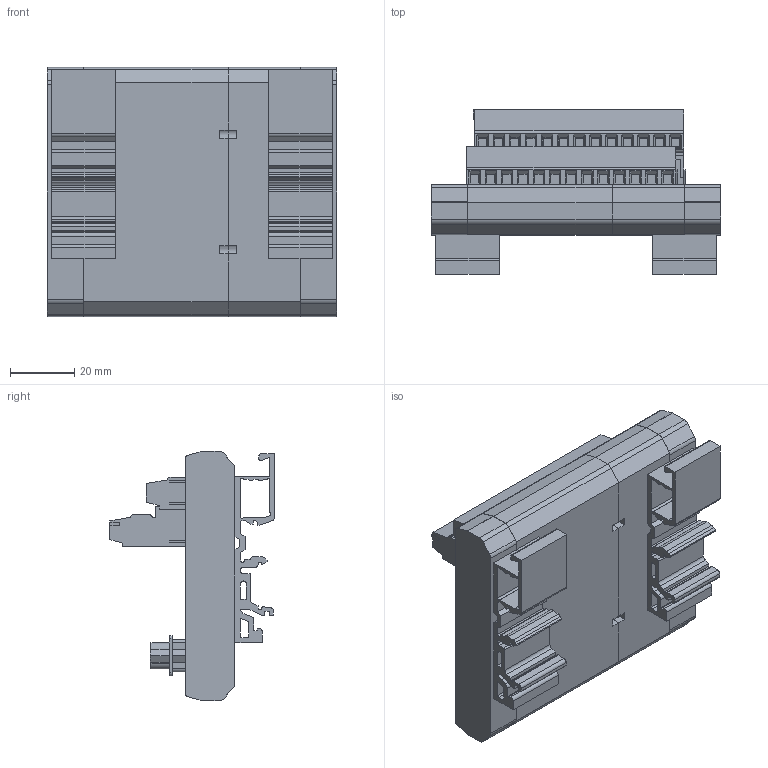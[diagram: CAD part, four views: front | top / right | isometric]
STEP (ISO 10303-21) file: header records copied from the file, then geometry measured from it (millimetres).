
FILE_DESCRIPTION((''),'2;1');
FILE_NAME('00_MIINEPORT_ASM','2017-05-16T',('SherryCY_Sun'),('PTC'),'PRO/ENGINEER BY PARAMETRIC TECHNOLOGY CORPORATION, 2013230','PRO/ENGINEER BY PARAMETRIC TECHNOLOGY CORPORATION, 2013230','');
FILE_SCHEMA(('AUTOMOTIVE_DESIGN { 1 0 10303 214 1 1 1 1 }'));
Products named in the file (12): SP-01-0040A007; SP-01-0040A005; SP-01-0040A001; SP-01-0040A002; SP-01-0040A002_1; CASE_ASM; PCB_TB-F25; DINKLE-TB_EEK500V-13P; DINKLE-TB_EK500V-13P; PCB_TB-F25_ASM; 1126004251200_DB25_F; 00_MIINEPORT_ASM
Assembly tree (12 placements, depth 3):
  00_MIINEPORT_ASM
    CASE_ASM
      SP-01-0040A007
      SP-01-0040A005
      SP-01-0040A001  x2
      SP-01-0040A002
      SP-01-0040A002_1
    PCB_TB-F25_ASM
      PCB_TB-F25
      DINKLE-TB_EEK500V-13P
      DINKLE-TB_EK500V-13P
    1126004251200_DB25_F
Bounding box: 90 x 51.11 x 77.5 mm (x, y, z)
Volume: 106914.4 mm3; surface area: 70596.3 mm2
Topology: 10 solids, 10 shells, 2774 faces, 6819 edges, 4300 vertices
Faces by surface type: plane 1587, cylinder 787, cone 278, torus 119, bspline 3
Entity records: 101576 total; most frequent: CARTESIAN_POINT 14428, DIRECTION 13691, ORIENTED_EDGE 13038, EDGE_CURVE 6519, PRESENTATION_STYLE_ASSIGNMENT 6094, STYLED_ITEM 5707, CURVE_STYLE 5693, AXIS2_PLACEMENT_3D 4631
